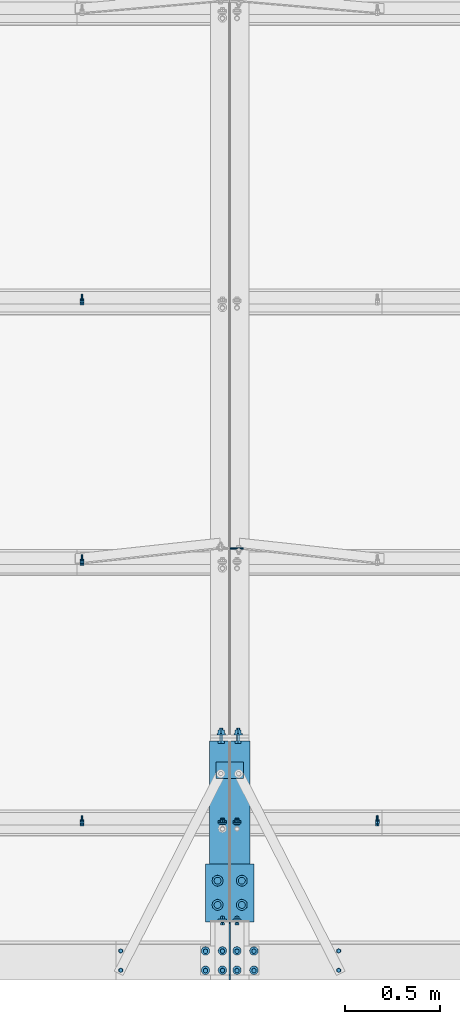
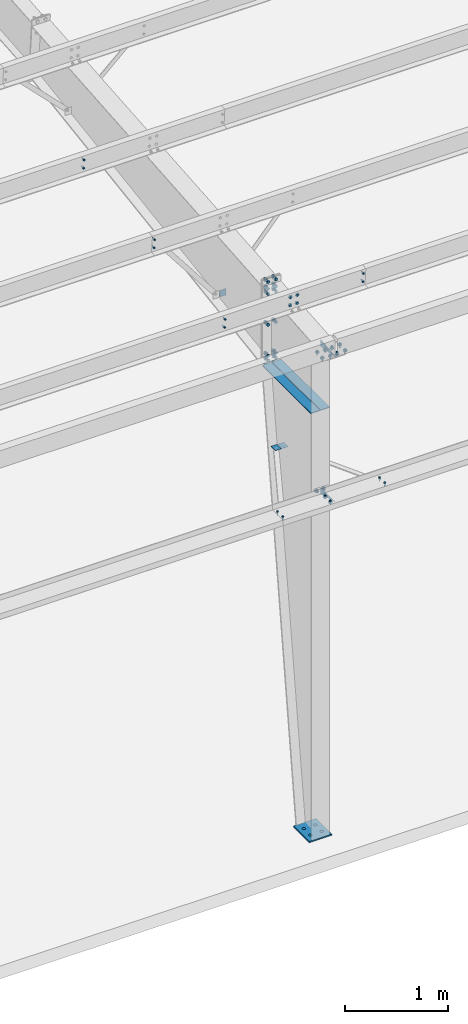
# One storey, part 73 of 185: 18 mechanical fasteners, 8 discrete accessories, 11 elements without a shape of their own.
"""IFC2X3 building model written with IfcOpenShell, lengths in millimetres."""

import ifcopenshell
import ifcopenshell.guid

model = None  # the IFC model being written
_history = None  # IfcOwnerHistory: only IFC2X3 demands one
_inside = {}  # id of a spatial element -> (the spatial element, [elements in it])
_under = {}  # id of a project, library or spatial element -> (it, [spatial elements below it])
_declared = {}  # id of a project -> (the project, [libraries it declares])
_typed = {}  # id of a type object -> (the type object, [elements of that type])
_made_of = {}  # id of a material, layer set ... -> (it, [elements and type objects made of it])


def new_model(schema):
    """Start an empty IFC model of exactly this schema.

    Asked for "IFC4X3", IfcOpenShell would pick the latest addendum, in which some entities
    have other attributes; the version numbers below select the first issue.
    IFC2X3 requires an IfcOwnerHistory on every rooted entity: one is made here for all.
    """
    global model, _history
    if schema == "IFC4X3":
        model = ifcopenshell.file(schema_version=(4, 3, 0, 0))
    else:
        model = ifcopenshell.file(schema=schema)
    _inside.clear()
    _under.clear()
    _declared.clear()
    _typed.clear()
    _made_of.clear()
    _history = None
    if model.schema == "IFC2X3":
        org = make("IfcOrganization", Name="unknown")
        user = make(
            "IfcPersonAndOrganization",
            ThePerson=make("IfcPerson", FamilyName="unknown"),
            TheOrganization=org,
        )
        app = make(
            "IfcApplication",
            ApplicationDeveloper=org,
            Version="unknown",
            ApplicationFullName="unknown",
            ApplicationIdentifier="unknown",
        )
        _history = make(
            "IfcOwnerHistory",
            OwningUser=user,
            OwningApplication=app,
            ChangeAction="ADDED",
            CreationDate=0,
        )
    return model


def make(cls, **values):
    """One entity of the class cls with the attributes given. An attribute that is None is left unset."""
    return model.create_entity(
        cls, **{name: value for name, value in values.items() if value is not None}
    )


def rooted(cls, **values):
    """An entity with a GlobalId (a new one), such as an element, a storey or a relation."""
    return make(cls, GlobalId=ifcopenshell.guid.new(), OwnerHistory=_history, **values)


def si_unit(unit_type, name, prefix=None):
    """IfcSIUnit, for example si_unit("LENGTHUNIT", "METRE", prefix="MILLI")."""
    return make("IfcSIUnit", UnitType=unit_type, Prefix=prefix, Name=name)


def assignment(units):
    """IfcUnitAssignment: the units of a project."""
    return None if units is None else make("IfcUnitAssignment", Units=units)


def point(xyz):
    """IfcCartesianPoint."""
    return None if xyz is None else make("IfcCartesianPoint", Coordinates=xyz)


def direction(xyz):
    """IfcDirection."""
    return None if xyz is None else make("IfcDirection", DirectionRatios=xyz)


def frame(location, z_axis=None, x_axis=None):
    """IfcAxis2Placement3D, a coordinate frame: its origin and axes. An axis left out is left unset."""
    return make(
        "IfcAxis2Placement3D",
        Location=point(location),
        Axis=direction(z_axis),
        RefDirection=direction(x_axis),
    )


def frame_2d(location, x_axis=None):
    """IfcAxis2Placement2D, a coordinate frame in the plane: its origin and x axis."""
    return make(
        "IfcAxis2Placement2D", Location=point(location), RefDirection=direction(x_axis)
    )


def origin_with_axes():
    """The frame at (0, 0, 0) with the z axis (0, 0, 1) and the x axis (1, 0, 0) written out."""
    return frame((0.0, 0.0, 0.0), z_axis=(0.0, 0.0, 1.0), x_axis=(1.0, 0.0, 0.0))


def origin_2d_with_axis():
    """The frame at (0, 0) in the plane with the x axis (1, 0) written out."""
    return frame_2d((0.0, 0.0), x_axis=(1.0, 0.0))


def place(relative_to, where):
    """IfcLocalPlacement: puts the frame where relative to a parent placement (None: the world)."""
    return make(
        "IfcLocalPlacement", PlacementRelTo=relative_to, RelativePlacement=where
    )


def context(
    kind, dimensions, precision=None, world=None, true_north=None, identifier=None
):
    """IfcGeometricRepresentationContext, for example the 3D "Model" context."""
    return make(
        "IfcGeometricRepresentationContext",
        ContextIdentifier=identifier,
        ContextType=kind,
        CoordinateSpaceDimension=dimensions,
        Precision=precision,
        WorldCoordinateSystem=world,
        TrueNorth=true_north,
    )


def subcontext(parent, identifier, kind, view, scale=None):
    """IfcGeometricRepresentationSubContext, for example "Body" below "Model"."""
    return make(
        "IfcGeometricRepresentationSubContext",
        ContextIdentifier=identifier,
        ContextType=kind,
        ParentContext=parent,
        TargetScale=scale,
        TargetView=view,
    )


def project(units=None, contexts=None):
    """IfcProject with its units and contexts."""
    return rooted(
        "IfcProject",
        Name="project",
        RepresentationContexts=contexts,
        UnitsInContext=assignment(units),
    )


def spatial(cls, under=None, at=None, **own):
    """A site, building, storey or space (cls), placed at a placement, below another one or the project."""
    s = rooted(cls, ObjectPlacement=at, **own)
    if under is not None:
        _under.setdefault(under.id(), (under, []))[1].append(s)
    return s


def polyline(points):
    """IfcPolyline through the points."""
    return make("IfcPolyline", Points=[point(p) for p in points])


def profile(cls, at=None, kind="AREA", **sizes):
    """A parametric profile (cls). Its sizes go by their IFC names, for example OverallWidth=200.0."""
    return make(cls, ProfileType=kind, Position=at, **sizes)


def rectangle(**sizes):
    """IfcRectangleProfileDef."""
    return profile("IfcRectangleProfileDef", **sizes)


def circle(**sizes):
    """IfcCircleProfileDef."""
    return profile("IfcCircleProfileDef", **sizes)


def outline(outer, holes=None, kind="AREA"):
    """IfcArbitraryClosedProfileDef: a profile drawn as a closed curve; with holes, ...WithVoids."""
    if holes is None:
        return make("IfcArbitraryClosedProfileDef", ProfileType=kind, OuterCurve=outer)
    return make(
        "IfcArbitraryProfileDefWithVoids",
        ProfileType=kind,
        OuterCurve=outer,
        InnerCurves=holes,
    )


def extrude(swept, where, along, depth):
    """IfcExtrudedAreaSolid: the profile swept, set in the frame where, extruded along a direction by depth."""
    return make(
        "IfcExtrudedAreaSolid",
        SweptArea=swept,
        Position=where,
        ExtrudedDirection=direction(along),
        Depth=depth,
    )


def shape(context_of_items, identifier, shape_type, items):
    """IfcShapeRepresentation: the items that make up one representation, for example the "Body"."""
    return make(
        "IfcShapeRepresentation",
        ContextOfItems=context_of_items,
        RepresentationIdentifier=identifier,
        RepresentationType=shape_type,
        Items=items,
    )


def source(mapping_origin, context_of_items, identifier, shape_type, items):
    """IfcRepresentationMap: a shape defined once, which mapped items show again and again."""
    return make(
        "IfcRepresentationMap",
        MappingOrigin=mapping_origin,
        MappedRepresentation=shape(context_of_items, identifier, shape_type, items),
    )


def transform(
    local_origin,
    x_axis=None,
    y_axis=None,
    z_axis=None,
    scale=None,
    scale2=None,
    scale3=None,
    uniform=True,
):
    """IfcCartesianTransformationOperator3D, or its non-uniform kind. x_axis, y_axis, z_axis: its Axis1, 2, 3."""
    if uniform:
        return make(
            "IfcCartesianTransformationOperator3D",
            Axis1=direction(x_axis),
            Axis2=direction(y_axis),
            LocalOrigin=point(local_origin),
            Scale=scale,
            Axis3=direction(z_axis),
        )
    return make(
        "IfcCartesianTransformationOperator3DnonUniform",
        Axis1=direction(x_axis),
        Axis2=direction(y_axis),
        LocalOrigin=point(local_origin),
        Scale=scale,
        Axis3=direction(z_axis),
        Scale2=scale2,
        Scale3=scale3,
    )


def mapped(mapping_source, mapping_target):
    """IfcMappedItem: shows the shape of a source again, moved by a transform."""
    return make(
        "IfcMappedItem", MappingSource=mapping_source, MappingTarget=mapping_target
    )


def material(Name=None, Category=None):
    """IfcMaterial."""
    return make("IfcMaterial", Name=Name, Category=Category)


def made_of(thing, what):
    """Note that an element or type object is made of a material, layer set ...; save() writes the relation."""
    if what is not None:
        _made_of.setdefault(what.id(), (what, []))[1].append(thing)
    return thing


def type_object(cls, material=None, **own):
    """A type object (cls), such as IfcWallType, which elements share."""
    return made_of(rooted(cls, **own), material)


def element(
    cls,
    number,
    at=None,
    inside=None,
    cuts=None,
    type_object=None,
    material=None,
    context=None,
    identifier="Body",
    shape_type=None,
    held_by="IfcProductDefinitionShape",
    body=None,
    shapes=None,
    **own,
):
    """One element of the class cls, such as IfcWall. Its Tag is "e" and its number.

    at: its placement. inside: the storey or other place that contains it. cuts: it is an
    opening in that element (IfcRelVoidsElement). A single representation is given by context,
    identifier, shape_type and body (its items); several are given by shapes. held_by: the class
    of the entity that holds the representations. save() writes the other relations.
    """
    e = rooted(cls, Tag="e%d" % number, ObjectPlacement=at, **own)
    if body is not None:
        shapes = [shape(context, identifier, shape_type, body)]
    if shapes is not None:
        e.Representation = make(held_by, Representations=shapes)
    if inside is not None:
        _inside.setdefault(inside.id(), (inside, []))[1].append(e)
    if cuts is not None:
        rooted(
            "IfcRelVoidsElement", RelatingBuildingElement=cuts, RelatedOpeningElement=e
        )
    if type_object is not None:
        _typed.setdefault(type_object.id(), (type_object, []))[1].append(e)
    return made_of(e, material)


def aggregate(whole, parts):
    """IfcRelAggregates: a whole, such as a stair, and the parts it consists of."""
    return rooted("IfcRelAggregates", RelatingObject=whole, RelatedObjects=parts)


def save(model, path):
    """Write the relations noted so far, then the file.

    IfcRelAggregates (storeys below a building ...), IfcRelContainedInSpatialStructure (elements
    in a storey), IfcRelDefinesByType, IfcRelAssociatesMaterial and IfcRelDeclares: one each for
    every whole, place, type object, material and project.
    """
    for whole, parts in _under.values():
        aggregate(whole, parts)
    for where, things in _inside.values():
        rooted(
            "IfcRelContainedInSpatialStructure",
            RelatedElements=things,
            RelatingStructure=where,
        )
    for kind, things in _typed.values():
        rooted("IfcRelDefinesByType", RelatedObjects=things, RelatingType=kind)
    for what, things in _made_of.values():
        rooted("IfcRelAssociatesMaterial", RelatedObjects=things, RelatingMaterial=what)
    for by, libraries in _declared.values():
        rooted("IfcRelDeclares", RelatingContext=by, RelatedDefinitions=libraries)
    model.write(path)


model = new_model("IFC2X3")

# Units and contexts
model_context = context("Model", 3, precision=1e-05, world=origin_with_axes())
body_context = subcontext(model_context, "Body", "Model", "MODEL_VIEW")
ifc_project = project(units=[si_unit("LENGTHUNIT", "METRE", prefix="MILLI"), si_unit("AREAUNIT", "SQUARE_METRE"), si_unit("VOLUMEUNIT", "CUBIC_METRE"), si_unit("MASSUNIT", "GRAM", prefix="KILO"), si_unit("TIMEUNIT", "SECOND"), si_unit("PLANEANGLEUNIT", "RADIAN"), si_unit("SOLIDANGLEUNIT", "STERADIAN"), si_unit("THERMODYNAMICTEMPERATUREUNIT", "DEGREE_CELSIUS"), si_unit("LUMINOUSINTENSITYUNIT", "LUMEN")], contexts=[model_context])

# Site, building, storey
site_placement = place(None, origin_with_axes())
site = spatial("IfcSite", under=ifc_project, at=site_placement, Name="Undefined", CompositionType="ELEMENT")
building_placement = place(site_placement, origin_with_axes())
building = spatial("IfcBuilding", under=site, at=building_placement, Name="Undefined", CompositionType="ELEMENT")
storey_placement = place(building_placement, origin_with_axes())
storey = spatial("IfcBuildingStorey", under=building, at=storey_placement, Name="Undefined", CompositionType="ELEMENT", Elevation=0.0)

# Assembly, discrete accessories
assembly_1_placement = place(storey_placement, origin_with_axes())
assembly_1 = element("IfcElementAssembly", 1, at=assembly_1_placement, inside=storey, Name="Steel Assembly", AssemblyPlace="NOTDEFINED", PredefinedType="RIGID_FRAME")
ifc_material_1 = material(Name="STEEL/55")
discrete_accessory_type_1 = type_object("IfcDiscreteAccessoryType", Name="Stiff")
discrete_accessory_1_placement = place(assembly_1_placement, frame((22533.76875, 312.674, 5067.48165112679), z_axis=(-1.0, 0.0, 0.0), x_axis=(0.0, 1.0, 0.0)))
discrete_accessory_1 = element("IfcDiscreteAccessory", 2, at=discrete_accessory_1_placement, type_object=discrete_accessory_type_1, material=ifc_material_1, Name="Stiff", ObjectType="FL3/8\"X4\"", context=body_context, shape_type="SweptSolid", body=[
    extrude(rectangle(XDim=9.525, YDim=101.6, at=origin_2d_with_axis()), frame((939.799999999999, 0.0, 0.0), z_axis=(-1.0, 0.0, 0.0), x_axis=(0.0, -1.0, 0.0)), (0.0, 0.0, 1.0), 939.8),
])
discrete_accessory_2_placement = place(assembly_1_placement, frame((22424.23125, 312.674, 5067.48165112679), z_axis=(-1.0, 0.0, 0.0), x_axis=(0.0, 1.0, 0.0)))
discrete_accessory_2 = element("IfcDiscreteAccessory", 3, at=discrete_accessory_2_placement, type_object=discrete_accessory_type_1, material=ifc_material_1, Name="Stiff", ObjectType="FL3/8\"X4\"", context=body_context, shape_type="SweptSolid", body=[
    extrude(rectangle(XDim=9.525, YDim=101.6, at=origin_2d_with_axis()), frame((939.799999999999, 0.0, 0.0), z_axis=(-1.0, 0.0, 0.0), x_axis=(0.0, -1.0, 0.0)), (0.0, 0.0, 1.0), 939.8),
])

# Assembly, mechanical fastener
assembly_2_placement = place(storey_placement, origin_with_axes())
assembly_2 = element("IfcElementAssembly", 4, at=assembly_2_placement, inside=storey, Name="Steel Assembly", AssemblyPlace="NOTDEFINED", PredefinedType="RIGID_FRAME")
ifc_material_2 = material(Name="Undefined")
discrete_accessory_type_2 = type_object("IfcDiscreteAccessoryType", Name="Bolt assembly")
shared_shape_1 = source(origin_with_axes(), body_context, "Body", "SweptSolid", [
    extrude(circle(Radius=7.14374971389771, at=origin_2d_with_axis()), frame((0.0, -1.59000001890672, 0.0), z_axis=(0.0, 1.0, 0.0), x_axis=(1.0, 0.0, 0.0)), (0.0, 0.0, 1.0), 3.3),
    extrude(circle(Radius=13.4937496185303, at=origin_2d_with_axis()), frame((0.0, -5.5587500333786, 0.0), z_axis=(0.0, 1.0, 0.0), x_axis=(1.0, 0.0, 0.0)), (0.0, 0.0, 1.0), 4.0),
    extrude(circle(Radius=22.2250003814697, at=origin_2d_with_axis()), frame((0.0, 1.5900000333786, 0.0), z_axis=(0.0, 1.0, 0.0), x_axis=(1.0, 0.0, 0.0)), (0.0, 0.0, 1.0), 7.9),
    extrude(outline(polyline([(12.8316099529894, 0.0), (6.4158049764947, 11.1125001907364), (-6.4158049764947, 11.1125001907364), (-12.8316099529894, 0.0), (-6.4158049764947, -11.1125001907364), (6.4158049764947, -11.1125001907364), (12.8316099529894, 0.0)])), frame((0.0, 9.5275000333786, 0.0), z_axis=(0.0, 1.0, 0.0), x_axis=(1.0, 0.0, 0.0)), (0.0, 0.0, 1.0), 12.3),
])
mechanical_fastener_1_placement = place(assembly_2_placement, frame((22517.1, 818.861779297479, 6113.26239802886), z_axis=(1.0, 0.0, 0.0), x_axis=(0.0, 0.0830454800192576, -0.996545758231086)))
mechanical_fastener_1 = element("IfcMechanicalFastener", 5, at=mechanical_fastener_1_placement, type_object=discrete_accessory_type_2, material=ifc_material_2, Name="Bolt assembly", NominalDiameter=12.6999998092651, NominalLength=38.0999984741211, context=body_context, shape_type="MappedRepresentation", body=[
    mapped(shared_shape_1, transform((0.0, 0.0, 0.0))),
    mapped(shared_shape_1, transform((101.599998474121, 0.0, 0.0))),
])
aggregate(assembly_2, [mechanical_fastener_1])

assembly_3_placement = place(storey_placement, origin_with_axes())
assembly_3 = element("IfcElementAssembly", 6, at=assembly_3_placement, inside=storey, Name="Steel Assembly", AssemblyPlace="NOTDEFINED", PredefinedType="RIGID_FRAME")
mechanical_fastener_2_placement = place(assembly_3_placement, frame((22440.9, 818.861779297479, 6113.26239802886), z_axis=(1.0, 0.0, 0.0), x_axis=(0.0, 0.0830454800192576, -0.996545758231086)))
mechanical_fastener_2 = element("IfcMechanicalFastener", 7, at=mechanical_fastener_2_placement, type_object=discrete_accessory_type_2, material=ifc_material_2, Name="Bolt assembly", NominalDiameter=12.6999998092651, NominalLength=38.0999984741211, context=body_context, shape_type="MappedRepresentation", body=[
    mapped(shared_shape_1, transform((0.0, 0.0, 0.0))),
    mapped(shared_shape_1, transform((101.599998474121, 0.0, 0.0))),
])

# Discrete accessory
discrete_accessory_type_3 = type_object("IfcDiscreteAccessoryType", Name="Base Plate")
discrete_accessory_3_placement = place(assembly_1_placement, frame((22479.0, 304.8, 7.93749999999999), z_axis=(1.0, 0.0, 0.0), x_axis=(0.0, 1.0, 0.0)))
discrete_accessory_3 = element("IfcDiscreteAccessory", 8, at=discrete_accessory_3_placement, type_object=discrete_accessory_type_3, material=ifc_material_1, Name="Base Plate", ObjectType="FL5/8\"X10\"", context=body_context, shape_type="SweptSolid", body=[
    extrude(rectangle(XDim=15.875, YDim=254.0, at=origin_2d_with_axis()), frame((304.909695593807, 0.0, 0.0), z_axis=(-1.0, 0.0, 0.0), x_axis=(0.0, -1.0, 0.0)), (0.0, 0.0, 1.0), 304.9),
])

discrete_accessory_type_4 = type_object("IfcDiscreteAccessoryType", Name="FLANGE BRACE FLIP")
discrete_accessory_4_placement = place(assembly_1_placement, frame((22476.61875, 1100.12169218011, 4163.4569751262), z_axis=(0.0, -1.0, 0.0), x_axis=(-1.0, 0.0, 0.0)))
discrete_accessory_4 = element("IfcDiscreteAccessory", 9, at=discrete_accessory_4_placement, type_object=discrete_accessory_type_4, material=ifc_material_1, Name="FLANGE BRACE FLIP", ObjectType="PL1/8\"X2 3/4\"", context=body_context, shape_type="SweptSolid", body=[
    extrude(rectangle(XDim=3.416, YDim=85.725, at=origin_2d_with_axis()), frame((69.8499999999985, 0.0, 0.0), z_axis=(-1.0, 0.0, 0.0), x_axis=(0.0, -1.0, 0.0)), (0.0, 0.0, 1.0), 69.8),
])

discrete_accessory_5_placement = place(assembly_1_placement, frame((22481.38125, 1100.12169218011, 4163.4569751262), z_axis=(0.0, -1.0, 0.0), x_axis=(1.0, 0.0, 0.0)))
discrete_accessory_5 = element("IfcDiscreteAccessory", 10, at=discrete_accessory_5_placement, type_object=discrete_accessory_type_4, material=ifc_material_1, Name="FLANGE BRACE FLIP", ObjectType="PL1/8\"X2 3/4\"", context=body_context, shape_type="SweptSolid", body=[
    extrude(rectangle(XDim=3.416, YDim=85.725, at=origin_2d_with_axis()), frame((69.8499999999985, 0.0, 0.0), z_axis=(-1.0, 0.0, 0.0), x_axis=(0.0, -1.0, 0.0)), (0.0, 0.0, 1.0), 69.8),
])

# Assembly, discrete accessory
assembly_4_placement = place(storey_placement, origin_with_axes())
assembly_4 = element("IfcElementAssembly", 11, at=assembly_4_placement, inside=storey, Name="Steel Assembly", AssemblyPlace="NOTDEFINED", PredefinedType="RIGID_FRAME")
discrete_accessory_6_placement = place(assembly_4_placement, frame((22481.381, 2264.17630960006, 5265.17211501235), z_axis=(0.0, -0.0830454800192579, 0.996545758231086), x_axis=(1.0, 0.0, 0.0)))
discrete_accessory_6 = element("IfcDiscreteAccessory", 12, at=discrete_accessory_6_placement, type_object=discrete_accessory_type_4, material=ifc_material_1, Name="FLANGE BRACE FLIP", ObjectType="PL1/8\"X2 3/4\"", context=body_context, shape_type="SweptSolid", body=[
    extrude(rectangle(XDim=3.416, YDim=85.725, at=origin_2d_with_axis()), frame((69.8499999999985, 0.0, 0.0), z_axis=(-1.0, 0.0, 0.0), x_axis=(0.0, -1.0, 0.0)), (0.0, 0.0, 1.0), 69.8),
])
aggregate(assembly_4, [discrete_accessory_6])

# Assembly, discrete accessory, mechanical fasteners
assembly_5_placement = place(storey_placement, origin_with_axes())
assembly_5 = element("IfcElementAssembly", 13, at=assembly_5_placement, inside=storey, Name="Steel Assembly", AssemblyPlace="NOTDEFINED", PredefinedType="RIGID_FRAME")
discrete_accessory_type_5 = type_object("IfcDiscreteAccessoryType", Name="Gusett")
discrete_accessory_7_placement = place(assembly_5_placement, frame((22479.0, 298.449999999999, 4089.4), z_axis=(1.0, 0.0, 0.0), x_axis=(0.0, 0.0, 1.0)))
discrete_accessory_7 = element("IfcDiscreteAccessory", 14, at=discrete_accessory_7_placement, type_object=discrete_accessory_type_5, material=ifc_material_1, Name="Gusett", ObjectType="FL1/4\"X2 3/4\"", context=body_context, shape_type="SweptSolid", body=[
    extrude(outline(polyline([(0.0, 0.0), (69.8499984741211, 0.0), (69.8499984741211, 273.049987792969), (0.0, 0.0)])), frame((0.0, 0.0, -3.175), z_axis=(0.0, 0.0, 1.0), x_axis=(1.0, 0.0, 0.0)), (0.0, 0.0, 1.0), 6.4),
])
shared_shape_2 = source(origin_with_axes(), body_context, "Body", "SweptSolid", [
    extrude(circle(Radius=7.14374971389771, at=origin_2d_with_axis()), frame((0.0, -0.1, 0.0), z_axis=(0.0, 1.0, 0.0), x_axis=(1.0, 0.0, 0.0)), (0.0, 0.0, 1.0), 8.0),
    extrude(circle(Radius=7.14374971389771, at=origin_2d_with_axis()), frame((0.0, -6.24999999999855, 0.0), z_axis=(0.0, 1.0, 0.0), x_axis=(1.0, 0.0, 0.0)), (0.0, 0.0, 1.0), 6.4),
    extrude(outline(polyline([(10.9985221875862, 0.0), (5.4992610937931, 9.52499961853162), (-5.4992610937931, 9.52499961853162), (-10.9985221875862, 0.0), (-5.4992610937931, -9.52499961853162), (5.4992610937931, -9.52499961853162), (10.9985221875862, 0.0)])), frame((0.0, -15.8750000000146, 0.0), z_axis=(0.0, 1.0, 0.0), x_axis=(1.0, 0.0, 0.0)), (0.0, 0.0, 1.0), 9.5),
    extrude(circle(Radius=6.34999990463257, at=origin_2d_with_axis()), frame((0.0, -6.34999953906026, 0.0), z_axis=(0.0, 1.0, 0.0), x_axis=(1.0, 0.0, 0.0)), (0.0, 0.0, 1.0), 38.1),
    extrude(circle(Radius=22.2250003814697, at=origin_2d_with_axis()), frame((0.0, 7.87399999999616, 0.0), z_axis=(0.0, 1.0, 0.0), x_axis=(1.0, 0.0, 0.0)), (0.0, 0.0, 1.0), 7.9),
    extrude(outline(polyline([(12.8316099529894, 0.0), (6.4158049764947, 11.1125001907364), (-6.4158049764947, 11.1125001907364), (-12.8316099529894, 0.0), (-6.4158049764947, -11.1125001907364), (6.4158049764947, -11.1125001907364), (12.8316099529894, 0.0)])), frame((0.0, 15.8114999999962, 0.0), z_axis=(0.0, 1.0, 0.0), x_axis=(1.0, 0.0, 0.0)), (0.0, 0.0, 1.0), 12.3),
])
mechanical_fastener_3_placement = place(assembly_5_placement, frame((22479.0, 304.8, 4127.5), z_axis=(1.0, 0.0, 0.0), x_axis=(0.0, 0.0, -1.0)))
mechanical_fastener_3 = element("IfcMechanicalFastener", 15, at=mechanical_fastener_3_placement, type_object=discrete_accessory_type_2, material=ifc_material_2, Name="Bolt assembly", NominalDiameter=12.6999998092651, NominalLength=38.0999984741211, context=body_context, shape_type="MappedRepresentation", body=[
    mapped(shared_shape_2, transform((0.0, 0.0, -38.0999984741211))),
    mapped(shared_shape_2, transform((0.0, 0.0, 38.0999984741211))),
])
shared_shape_3 = source(origin_with_axes(), body_context, "Body", "SweptSolid", [
    extrude(circle(Radius=7.14374971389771, at=origin_2d_with_axis()), frame((0.0, -1.4900000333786, 0.0), z_axis=(0.0, 1.0, 0.0), x_axis=(1.0, 0.0, 0.0)), (0.0, 0.0, 1.0), 3.2),
    extrude(circle(Radius=7.14374971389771, at=origin_2d_with_axis()), frame((0.0, -0.1, 0.0), z_axis=(0.0, 1.0, 0.0), x_axis=(1.0, 0.0, 0.0)), (0.0, 0.0, 1.0), 6.5),
    extrude(circle(Radius=7.14374971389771, at=origin_2d_with_axis()), frame((0.0, -1.4900000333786, 0.0), z_axis=(0.0, 1.0, 0.0), x_axis=(1.0, 0.0, 0.0)), (0.0, 0.0, 1.0), 3.2),
    extrude(outline(polyline([(10.9985221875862, 0.0), (5.4992610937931, 9.52499961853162), (-5.4992610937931, 9.52499961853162), (-10.9985221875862, 0.0), (-5.4992610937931, -9.52499961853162), (5.4992610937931, -9.52499961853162), (10.9985221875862, 0.0)])), frame((0.0, -15.0837496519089, 0.0), z_axis=(0.0, 1.0, 0.0), x_axis=(1.0, 0.0, 0.0)), (0.0, 0.0, 1.0), 9.5),
    extrude(circle(Radius=6.34999990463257, at=origin_2d_with_axis()), frame((0.0, -5.5587500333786, 0.0), z_axis=(0.0, 1.0, 0.0), x_axis=(1.0, 0.0, 0.0)), (0.0, 0.0, 1.0), 38.1),
    extrude(circle(Radius=13.4937496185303, at=origin_2d_with_axis()), frame((0.0, -5.5587500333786, 0.0), z_axis=(0.0, 1.0, 0.0), x_axis=(1.0, 0.0, 0.0)), (0.0, 0.0, 1.0), 4.0),
    extrude(circle(Radius=22.2250003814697, at=origin_2d_with_axis()), frame((0.0, 6.35000000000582, 0.0), z_axis=(0.0, 1.0, 0.0), x_axis=(1.0, 0.0, 0.0)), (0.0, 0.0, 1.0), 7.9),
    extrude(outline(polyline([(12.8316099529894, 0.0), (6.4158049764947, 11.1125001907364), (-6.4158049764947, 11.1125001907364), (-12.8316099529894, 0.0), (-6.4158049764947, -11.1125001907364), (6.4158049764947, -11.1125001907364), (12.8316099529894, 0.0)])), frame((0.0, 14.2875000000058, 0.0), z_axis=(0.0, 1.0, 0.0), x_axis=(1.0, 0.0, 0.0)), (0.0, 0.0, 1.0), 12.3),
])
mechanical_fastener_4_placement = place(assembly_5_placement, frame((22440.9, 50.7999992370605, 4165.6), z_axis=(-1.0, 0.0, 0.0), x_axis=(0.0, 1.0, 0.0)))
mechanical_fastener_4 = element("IfcMechanicalFastener", 16, at=mechanical_fastener_4_placement, type_object=discrete_accessory_type_2, material=ifc_material_2, Name="Bolt assembly", NominalDiameter=12.6999998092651, NominalLength=38.0999984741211, context=body_context, shape_type="MappedRepresentation", body=[
    mapped(shared_shape_3, transform((0.0, 0.0, 0.0))),
    mapped(shared_shape_3, transform((101.599998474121, 0.0, 0.0))),
])
aggregate(assembly_5, [mechanical_fastener_3, mechanical_fastener_4, discrete_accessory_7])

# Assembly, mechanical fasteners
assembly_6_placement = place(storey_placement, origin_with_axes())
assembly_6 = element("IfcElementAssembly", 17, at=assembly_6_placement, inside=storey, Name="Steel Assembly", AssemblyPlace="NOTDEFINED", PredefinedType="RIGID_FRAME")
shared_shape_4 = source(origin_with_axes(), body_context, "Body", "SweptSolid", [
    extrude(circle(Radius=7.14374971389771, at=origin_2d_with_axis()), frame((0.0, -1.4900000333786, 0.0), z_axis=(0.0, 1.0, 0.0), x_axis=(1.0, 0.0, 0.0)), (0.0, 0.0, 1.0), 3.2),
    extrude(circle(Radius=7.14374971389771, at=origin_2d_with_axis()), frame((0.0, -1.4900000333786, 0.0), z_axis=(0.0, 1.0, 0.0), x_axis=(1.0, 0.0, 0.0)), (0.0, 0.0, 1.0), 3.2),
    extrude(outline(polyline([(10.9985221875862, 0.0), (5.4992610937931, 9.52499961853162), (-5.4992610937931, 9.52499961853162), (-10.9985221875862, 0.0), (-5.4992610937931, -9.52499961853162), (5.4992610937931, -9.52499961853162), (10.9985221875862, 0.0)])), frame((0.0, -11.1149996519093, 0.0), z_axis=(0.0, 1.0, 0.0), x_axis=(1.0, 0.0, 0.0)), (0.0, 0.0, 1.0), 9.5),
    extrude(circle(Radius=6.34999990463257, at=origin_2d_with_axis()), frame((0.0, -1.59000001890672, 0.0), z_axis=(0.0, 1.0, 0.0), x_axis=(1.0, 0.0, 0.0)), (0.0, 0.0, 1.0), 38.1),
    extrude(outline(polyline([(12.8316099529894, 0.0), (6.4158049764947, 11.1125001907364), (-6.4158049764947, 11.1125001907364), (-12.8316099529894, 0.0), (-6.4158049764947, -11.1125001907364), (6.4158049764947, -11.1125001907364), (12.8316099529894, 0.0)])), frame((0.0, 1.5900000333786, 0.0), z_axis=(0.0, 1.0, 0.0), x_axis=(1.0, 0.0, 0.0)), (0.0, 0.0, 1.0), 12.3),
])
mechanical_fastener_5_placement = place(assembly_6_placement, frame((23050.5, 50.8, 4165.6), z_axis=(-1.0, 0.0, 0.0), x_axis=(0.0, 1.0, 0.0)))
mechanical_fastener_5 = element("IfcMechanicalFastener", 18, at=mechanical_fastener_5_placement, type_object=discrete_accessory_type_2, material=ifc_material_2, Name="Bolt assembly", NominalDiameter=12.6999998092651, NominalLength=38.0999984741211, context=body_context, shape_type="MappedRepresentation", body=[
    mapped(shared_shape_4, transform((0.0, 0.0, 0.0))),
    mapped(shared_shape_4, transform((101.599998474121, 0.0, 0.0))),
])
mechanical_fastener_6_placement = place(assembly_6_placement, frame((21907.5, 50.8, 4165.6), z_axis=(-1.0, 0.0, 0.0), x_axis=(0.0, 1.0, 0.0)))
mechanical_fastener_6 = element("IfcMechanicalFastener", 19, at=mechanical_fastener_6_placement, type_object=discrete_accessory_type_2, material=ifc_material_2, Name="Bolt assembly", NominalDiameter=12.6999998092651, NominalLength=38.0999984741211, context=body_context, shape_type="MappedRepresentation", body=[
    mapped(shared_shape_4, transform((0.0, 0.0, 0.0))),
    mapped(shared_shape_4, transform((101.599998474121, 0.0, 0.0))),
])
aggregate(assembly_6, [mechanical_fastener_5, mechanical_fastener_6])

# Mechanical fastener
mechanical_fastener_7_placement = place(assembly_3_placement, frame((23253.7, 818.861779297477, 6113.26239802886), z_axis=(1.0, 0.0, 0.0), x_axis=(0.0, 0.0830454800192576, -0.996545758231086)))
mechanical_fastener_7 = element("IfcMechanicalFastener", 20, at=mechanical_fastener_7_placement, type_object=discrete_accessory_type_2, material=ifc_material_2, Name="Bolt assembly", NominalDiameter=12.6999998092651, NominalLength=38.0999984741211, context=body_context, shape_type="MappedRepresentation", body=[
    mapped(shared_shape_4, transform((0.0, 0.0, 0.0))),
    mapped(shared_shape_4, transform((101.599998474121, 0.0, 0.0))),
])

mechanical_fastener_8_placement = place(assembly_3_placement, frame((21704.3, 818.861779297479, 6113.26239802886), z_axis=(1.0, 0.0, 0.0), x_axis=(0.0, 0.0830454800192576, -0.996545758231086)))
mechanical_fastener_8 = element("IfcMechanicalFastener", 21, at=mechanical_fastener_8_placement, type_object=discrete_accessory_type_2, material=ifc_material_2, Name="Bolt assembly", NominalDiameter=12.6999998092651, NominalLength=38.0999984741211, context=body_context, shape_type="MappedRepresentation", body=[
    mapped(shared_shape_4, transform((0.0, 0.0, 0.0))),
    mapped(shared_shape_4, transform((101.599998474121, 0.0, 0.0))),
])

aggregate(assembly_3, [mechanical_fastener_2, mechanical_fastener_7, mechanical_fastener_8])

# Assembly, mechanical fastener
assembly_7_placement = place(storey_placement, origin_with_axes())
assembly_7 = element("IfcElementAssembly", 22, at=assembly_7_placement, inside=storey, Name="Steel Assembly", AssemblyPlace="NOTDEFINED", PredefinedType="RIGID_FRAME")
mechanical_fastener_9_placement = place(assembly_7_placement, frame((21704.3, 2185.7239412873, 6227.16757842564), z_axis=(1.0, 0.0, 0.0), x_axis=(0.0, 0.0830454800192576, -0.996545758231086)))
mechanical_fastener_9 = element("IfcMechanicalFastener", 23, at=mechanical_fastener_9_placement, type_object=discrete_accessory_type_2, material=ifc_material_2, Name="Bolt assembly", NominalDiameter=12.6999998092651, NominalLength=38.0999984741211, context=body_context, shape_type="MappedRepresentation", body=[
    mapped(shared_shape_4, transform((0.0, 0.0, 0.0))),
    mapped(shared_shape_4, transform((101.599998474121, 0.0, 0.0))),
])
aggregate(assembly_7, [mechanical_fastener_9])

assembly_8_placement = place(storey_placement, origin_with_axes())
assembly_8 = element("IfcElementAssembly", 24, at=assembly_8_placement, inside=storey, Name="Steel Assembly", AssemblyPlace="NOTDEFINED", PredefinedType="RIGID_FRAME")
mechanical_fastener_10_placement = place(assembly_8_placement, frame((21704.3, 3552.58610327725, 6341.07275882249), z_axis=(1.0, 0.0, 0.0), x_axis=(0.0, 0.0830454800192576, -0.996545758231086)))
mechanical_fastener_10 = element("IfcMechanicalFastener", 25, at=mechanical_fastener_10_placement, type_object=discrete_accessory_type_2, material=ifc_material_2, Name="Bolt assembly", NominalDiameter=12.6999998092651, NominalLength=38.0999984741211, context=body_context, shape_type="MappedRepresentation", body=[
    mapped(shared_shape_4, transform((0.0, 0.0, 0.0))),
    mapped(shared_shape_4, transform((101.599998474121, 0.0, 0.0))),
])
aggregate(assembly_8, [mechanical_fastener_10])

# Discrete accessory
discrete_accessory_type_6 = type_object("IfcDiscreteAccessoryType", Name="Gusset")
discrete_accessory_8_placement = place(assembly_1_placement, frame((22479.0, 304.8, 5909.51790803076), z_axis=(1.0, 0.0, 0.0), x_axis=(0.0, -0.996548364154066, -0.0830142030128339)))
discrete_accessory_8 = element("IfcDiscreteAccessory", 26, at=discrete_accessory_8_placement, type_object=discrete_accessory_type_6, material=ifc_material_1, Name="Gusset", ObjectType="1/4\"X2 15/16\"", context=body_context, shape_type="SweptSolid", body=[
    extrude(outline(polyline([(0.0, 0.0), (305.244781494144, -7.45785655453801e-11), (6.32568216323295, 75.9369888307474), (0.0, 0.0)])), frame((0.0, 0.0, -3.175), z_axis=(0.0, 0.0, 1.0), x_axis=(1.0, 0.0, 0.0)), (0.0, 0.0, 1.0), 6.4),
])

# Mechanical fastener
shared_shape_5 = source(origin_with_axes(), body_context, "Body", "SweptSolid", [
    extrude(circle(Radius=10.3187494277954, at=origin_2d_with_axis()), frame((0.0, -0.1, 0.0), z_axis=(0.0, 1.0, 0.0), x_axis=(1.0, 0.0, 0.0)), (0.0, 0.0, 1.0), 15.8),
    extrude(circle(Radius=10.3187494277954, at=origin_2d_with_axis()), frame((0.0, -15.775, 0.0), z_axis=(0.0, 1.0, 0.0), x_axis=(1.0, 0.0, 0.0)), (0.0, 0.0, 1.0), 15.9),
    extrude(outline(polyline([(18.3308710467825, 0.0), (9.16543552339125, 15.8750000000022), (-9.16543552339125, 15.8750000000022), (-18.3308710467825, 0.0), (-9.16543552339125, -15.8750000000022), (9.16543552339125, -15.8750000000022), (18.3308710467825, 0.0)])), frame((0.0, -27.78125, 0.0), z_axis=(0.0, 1.0, 0.0), x_axis=(1.0, 0.0, 0.0)), (0.0, 0.0, 1.0), 11.9),
    extrude(circle(Radius=9.52499961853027, at=origin_2d_with_axis()), frame((0.0, -15.8750000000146, 0.0), z_axis=(0.0, 1.0, 0.0), x_axis=(1.0, 0.0, 0.0)), (0.0, 0.0, 1.0), 69.8),
    extrude(circle(Radius=22.2250003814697, at=origin_2d_with_axis()), frame((0.0, 15.7480000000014, 0.0), z_axis=(0.0, 1.0, 0.0), x_axis=(1.0, 0.0, 0.0)), (0.0, 0.0, 1.0), 7.9),
    extrude(outline(polyline([(18.3308710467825, 0.0), (9.16543552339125, 15.8750000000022), (-9.16543552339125, 15.8750000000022), (-18.3308710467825, 0.0), (-9.16543552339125, -15.8750000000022), (9.16543552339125, -15.8750000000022), (18.3308710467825, 0.0)])), frame((0.0, 23.6855000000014, 0.0), z_axis=(0.0, 1.0, 0.0), x_axis=(1.0, 0.0, 0.0)), (0.0, 0.0, 1.0), 19.0),
])
mechanical_fastener_11_placement = place(assembly_1_placement, frame((22479.0, 1268.349, 5531.15865002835), z_axis=(1.0, 0.0, 0.0), x_axis=(0.0, 0.0, -1.0)))
mechanical_fastener_11 = element("IfcMechanicalFastener", 27, at=mechanical_fastener_11_placement, type_object=discrete_accessory_type_2, material=ifc_material_2, Name="Bolt assembly", NominalDiameter=19.0499992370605, NominalLength=69.8499984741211, context=body_context, shape_type="MappedRepresentation", body=[
    mapped(shared_shape_5, transform((0.0, 0.0, -44.4500007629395))),
    mapped(shared_shape_5, transform((0.0, 0.0, 44.4500007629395))),
])

mechanical_fastener_12_placement = place(assembly_1_placement, frame((22479.0, 1268.349, 5024.74615112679), z_axis=(-1.0, 0.0, 0.0), x_axis=(0.0, 0.0, 1.0)))
mechanical_fastener_12 = element("IfcMechanicalFastener", 28, at=mechanical_fastener_12_placement, type_object=discrete_accessory_type_2, material=ifc_material_2, Name="Bolt assembly", NominalDiameter=19.0499992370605, NominalLength=69.8499984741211, context=body_context, shape_type="MappedRepresentation", body=[
    mapped(shared_shape_5, transform((0.0, 0.0, -44.4500007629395))),
    mapped(shared_shape_5, transform((82.5500030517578, 0.0, -44.4500007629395))),
    mapped(shared_shape_5, transform((139.699996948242, 0.0, -44.4500007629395))),
    mapped(shared_shape_5, transform((0.0, 0.0, 44.4500007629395))),
    mapped(shared_shape_5, transform((82.5500030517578, 0.0, 44.4500007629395))),
    mapped(shared_shape_5, transform((139.699996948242, 0.0, 44.4500007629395))),
])

mechanical_fastener_13_placement = place(assembly_1_placement, frame((22479.0, 1268.349, 6037.57115112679), z_axis=(1.0, 0.0, 0.0), x_axis=(0.0, 0.0, -1.0)))
mechanical_fastener_13 = element("IfcMechanicalFastener", 29, at=mechanical_fastener_13_placement, type_object=discrete_accessory_type_2, material=ifc_material_2, Name="Bolt assembly", NominalDiameter=19.0499992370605, NominalLength=69.8499984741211, context=body_context, shape_type="MappedRepresentation", body=[
    mapped(shared_shape_5, transform((0.0, 0.0, -44.4500007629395))),
    mapped(shared_shape_5, transform((82.5500030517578, 0.0, -44.4500007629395))),
    mapped(shared_shape_5, transform((139.699996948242, 0.0, -44.4500007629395))),
    mapped(shared_shape_5, transform((0.0, 0.0, 44.4500007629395))),
    mapped(shared_shape_5, transform((82.5500030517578, 0.0, 44.4500007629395))),
    mapped(shared_shape_5, transform((139.699996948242, 0.0, 44.4500007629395))),
])

# Assembly, mechanical fasteners
assembly_9_placement = place(storey_placement, origin_with_axes())
assembly_9 = element("IfcElementAssembly", 30, at=assembly_9_placement, inside=storey, Name="Steel Assembly", AssemblyPlace="NOTDEFINED", PredefinedType="RIGID_FRAME")
shared_shape_6 = source(origin_with_axes(), body_context, "Body", "SweptSolid", [
    extrude(circle(Radius=7.14499998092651, at=origin_2d_with_axis()), frame((0.0, -7.8375000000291, 0.0), z_axis=(0.0, 1.0, 0.0), x_axis=(1.0, 0.0, 0.0)), (0.0, 0.0, 1.0), 6.4),
    extrude(circle(Radius=7.14499998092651, at=origin_2d_with_axis()), frame((0.0, -1.58749999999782, 0.0), z_axis=(0.0, 1.0, 0.0), x_axis=(1.0, 0.0, 0.0)), (0.0, 0.0, 1.0), 1.6),
    extrude(circle(Radius=7.14499998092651, at=origin_2d_with_axis()), frame((0.0, -0.1, 0.0), z_axis=(0.0, 1.0, 0.0), x_axis=(1.0, 0.0, 0.0)), (0.0, 0.0, 1.0), 8.1),
    extrude(outline(polyline([(12.8316099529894, 0.0), (6.4158049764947, 11.1125001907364), (-6.4158049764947, 11.1125001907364), (-12.8316099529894, 0.0), (-6.4158049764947, -11.1125001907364), (6.4158049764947, -11.1125001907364), (12.8316099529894, 0.0)])), frame((0.0, -15.8750000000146, 0.0), z_axis=(0.0, 1.0, 0.0), x_axis=(1.0, 0.0, 0.0)), (0.0, 0.0, 1.0), 7.9),
    extrude(circle(Radius=6.34999990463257, at=origin_2d_with_axis()), frame((0.0, -7.93749389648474, 0.0), z_axis=(0.0, 1.0, 0.0), x_axis=(1.0, 0.0, 0.0)), (0.0, 0.0, 1.0), 50.8),
    extrude(circle(Radius=22.2250003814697, at=origin_2d_with_axis()), frame((0.0, 7.95019856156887, 0.0), z_axis=(0.0, 1.0, 0.0), x_axis=(1.0, 0.0, 0.0)), (0.0, 0.0, 1.0), 7.9),
    extrude(outline(polyline([(12.8316099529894, 0.0), (6.4158049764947, 11.1125001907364), (-6.4158049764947, 11.1125001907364), (-12.8316099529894, 0.0), (-6.4158049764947, -11.1125001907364), (6.4158049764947, -11.1125001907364), (12.8316099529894, 0.0)])), frame((0.0, 15.8876985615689, 0.0), z_axis=(0.0, 1.0, 0.0), x_axis=(1.0, 0.0, 0.0)), (0.0, 0.0, 1.0), 12.3),
])
mechanical_fastener_14_placement = place(assembly_9_placement, frame((22440.9, 50.6245237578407, 5896.31437545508), z_axis=(-1.0, 0.0, 0.0), x_axis=(0.0, 0.996545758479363, 0.0830454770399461)))
mechanical_fastener_14 = element("IfcMechanicalFastener", 31, at=mechanical_fastener_14_placement, type_object=discrete_accessory_type_2, material=ifc_material_2, Name="Bolt assembly", NominalDiameter=12.6999998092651, NominalLength=50.7999992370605, context=body_context, shape_type="MappedRepresentation", body=[
    mapped(shared_shape_6, transform((0.0, 0.0, 0.0))),
    mapped(shared_shape_6, transform((101.599998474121, 0.0, 0.0))),
])
shared_shape_7 = source(origin_with_axes(), body_context, "Body", "SweptSolid", [
    extrude(circle(Radius=7.14499998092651, at=origin_2d_with_axis()), frame((0.0, -7.8375000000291, 0.0), z_axis=(0.0, 1.0, 0.0), x_axis=(1.0, 0.0, 0.0)), (0.0, 0.0, 1.0), 6.4),
    extrude(circle(Radius=7.14499998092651, at=origin_2d_with_axis()), frame((0.0, -1.68750355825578, 0.0), z_axis=(0.0, 1.0, 0.0), x_axis=(1.0, 0.0, 0.0)), (0.0, 0.0, 1.0), 1.7),
    extrude(outline(polyline([(12.8316099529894, 0.0), (6.4158049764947, 11.1125001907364), (-6.4158049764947, 11.1125001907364), (-12.8316099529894, 0.0), (-6.4158049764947, -11.1125001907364), (6.4158049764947, -11.1125001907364), (12.8316099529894, 0.0)])), frame((0.0, -15.8750000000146, 0.0), z_axis=(0.0, 1.0, 0.0), x_axis=(1.0, 0.0, 0.0)), (0.0, 0.0, 1.0), 7.9),
    extrude(circle(Radius=6.34999990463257, at=origin_2d_with_axis()), frame((0.0, -7.93749389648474, 0.0), z_axis=(0.0, 1.0, 0.0), x_axis=(1.0, 0.0, 0.0)), (0.0, 0.0, 1.0), 50.8),
    extrude(circle(Radius=22.2250003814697, at=origin_2d_with_axis()), frame((0.0, 0.0, 0.0), z_axis=(0.0, 1.0, 0.0), x_axis=(1.0, 0.0, 0.0)), (0.0, 0.0, 1.0), 7.9),
    extrude(outline(polyline([(12.8316099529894, 0.0), (6.4158049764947, 11.1125001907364), (-6.4158049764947, 11.1125001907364), (-12.8316099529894, 0.0), (-6.4158049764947, -11.1125001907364), (6.4158049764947, -11.1125001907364), (12.8316099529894, 0.0)])), frame((0.0, 7.93750000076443, 0.0), z_axis=(0.0, 1.0, 0.0), x_axis=(1.0, 0.0, 0.0)), (0.0, 0.0, 1.0), 12.3),
])
mechanical_fastener_15_placement = place(assembly_9_placement, frame((22352.0, 50.6245237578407, 5896.31437545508), z_axis=(-1.0, 0.0, 0.0), x_axis=(0.0, 0.996545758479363, 0.0830454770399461)))
mechanical_fastener_15 = element("IfcMechanicalFastener", 32, at=mechanical_fastener_15_placement, type_object=discrete_accessory_type_2, material=ifc_material_2, Name="Bolt assembly", NominalDiameter=12.6999998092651, NominalLength=50.7999992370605, context=body_context, shape_type="MappedRepresentation", body=[
    mapped(shared_shape_7, transform((0.0, 0.0, 0.0))),
    mapped(shared_shape_7, transform((101.599998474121, 0.0, 0.0))),
])
aggregate(assembly_9, [mechanical_fastener_14, mechanical_fastener_15])

# Assembly, mechanical fastener
assembly_10_placement = place(storey_placement, origin_with_axes())
assembly_10 = element("IfcElementAssembly", 33, at=assembly_10_placement, inside=storey, Name="Steel Assembly", AssemblyPlace="NOTDEFINED", PredefinedType="RIGID_FRAME")
shared_shape_8 = source(origin_with_axes(), body_context, "Body", "SweptSolid", [
    extrude(circle(Radius=7.14374971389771, at=origin_2d_with_axis()), frame((0.0, -7.8375000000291, 0.0), z_axis=(0.0, 1.0, 0.0), x_axis=(1.0, 0.0, 0.0)), (0.0, 0.0, 1.0), 6.4),
    extrude(circle(Radius=7.14374971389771, at=origin_2d_with_axis()), frame((0.0, -1.68750355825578, 0.0), z_axis=(0.0, 1.0, 0.0), x_axis=(1.0, 0.0, 0.0)), (0.0, 0.0, 1.0), 1.7),
    extrude(outline(polyline([(12.8316099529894, 0.0), (6.4158049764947, 11.1125001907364), (-6.4158049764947, 11.1125001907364), (-12.8316099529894, 0.0), (-6.4158049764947, -11.1125001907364), (6.4158049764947, -11.1125001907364), (12.8316099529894, 0.0)])), frame((0.0, -15.8750000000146, 0.0), z_axis=(0.0, 1.0, 0.0), x_axis=(1.0, 0.0, 0.0)), (0.0, 0.0, 1.0), 7.9),
    extrude(circle(Radius=6.34999990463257, at=origin_2d_with_axis()), frame((0.0, -7.93749389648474, 0.0), z_axis=(0.0, 1.0, 0.0), x_axis=(1.0, 0.0, 0.0)), (0.0, 0.0, 1.0), 50.8),
    extrude(circle(Radius=22.2250003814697, at=origin_2d_with_axis()), frame((0.0, 0.0, 0.0), z_axis=(0.0, 1.0, 0.0), x_axis=(1.0, 0.0, 0.0)), (0.0, 0.0, 1.0), 7.9),
    extrude(outline(polyline([(12.8316099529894, 0.0), (6.4158049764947, 11.1125001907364), (-6.4158049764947, 11.1125001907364), (-12.8316099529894, 0.0), (-6.4158049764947, -11.1125001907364), (6.4158049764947, -11.1125001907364), (12.8316099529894, 0.0)])), frame((0.0, 7.93750000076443, 0.0), z_axis=(0.0, 1.0, 0.0), x_axis=(1.0, 0.0, 0.0)), (0.0, 0.0, 1.0), 12.3),
])
mechanical_fastener_16_placement = place(assembly_10_placement, frame((22606.0, 50.6245237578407, 5896.31437545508), z_axis=(-1.0, 0.0, 0.0), x_axis=(0.0, 0.996545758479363, 0.0830454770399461)))
mechanical_fastener_16 = element("IfcMechanicalFastener", 34, at=mechanical_fastener_16_placement, type_object=discrete_accessory_type_2, material=ifc_material_2, Name="Bolt assembly", NominalDiameter=12.6999998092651, NominalLength=50.7999992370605, context=body_context, shape_type="MappedRepresentation", body=[
    mapped(shared_shape_8, transform((0.0, 0.0, 0.0))),
    mapped(shared_shape_8, transform((101.599998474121, 0.0, 0.0))),
])
aggregate(assembly_10, [mechanical_fastener_16])

assembly_11_placement = place(storey_placement, origin_with_axes())
assembly_11 = element("IfcElementAssembly", 35, at=assembly_11_placement, inside=storey, Name="Steel Assembly", AssemblyPlace="NOTDEFINED", PredefinedType="RIGID_FRAME")
shared_shape_9 = source(origin_with_axes(), body_context, "Body", "SweptSolid", [
    extrude(circle(Radius=7.14499998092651, at=origin_2d_with_axis()), frame((0.0, -1.58749999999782, 0.0), z_axis=(0.0, 1.0, 0.0), x_axis=(1.0, 0.0, 0.0)), (0.0, 0.0, 1.0), 1.6),
    extrude(circle(Radius=7.14499998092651, at=origin_2d_with_axis()), frame((0.0, -7.8375000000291, 0.0), z_axis=(0.0, 1.0, 0.0), x_axis=(1.0, 0.0, 0.0)), (0.0, 0.0, 1.0), 6.4),
    extrude(circle(Radius=7.14499998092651, at=origin_2d_with_axis()), frame((0.0, -0.1, 0.0), z_axis=(0.0, 1.0, 0.0), x_axis=(1.0, 0.0, 0.0)), (0.0, 0.0, 1.0), 8.1),
    extrude(outline(polyline([(12.8316099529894, 0.0), (6.4158049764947, 11.1125001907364), (-6.4158049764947, 11.1125001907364), (-12.8316099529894, 0.0), (-6.4158049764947, -11.1125001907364), (6.4158049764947, -11.1125001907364), (12.8316099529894, 0.0)])), frame((0.0, -15.8750000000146, 0.0), z_axis=(0.0, 1.0, 0.0), x_axis=(1.0, 0.0, 0.0)), (0.0, 0.0, 1.0), 7.9),
    extrude(circle(Radius=6.34999990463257, at=origin_2d_with_axis()), frame((0.0, -7.93749389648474, 0.0), z_axis=(0.0, 1.0, 0.0), x_axis=(1.0, 0.0, 0.0)), (0.0, 0.0, 1.0), 50.8),
    extrude(circle(Radius=22.2250003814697, at=origin_2d_with_axis()), frame((0.0, 7.95019856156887, 0.0), z_axis=(0.0, 1.0, 0.0), x_axis=(1.0, 0.0, 0.0)), (0.0, 0.0, 1.0), 7.9),
    extrude(outline(polyline([(12.8316099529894, 0.0), (6.4158049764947, 11.1125001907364), (-6.4158049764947, 11.1125001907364), (-12.8316099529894, 0.0), (-6.4158049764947, -11.1125001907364), (6.4158049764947, -11.1125001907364), (12.8316099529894, 0.0)])), frame((0.0, 15.8876985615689, 0.0), z_axis=(0.0, 1.0, 0.0), x_axis=(1.0, 0.0, 0.0)), (0.0, 0.0, 1.0), 12.3),
])
mechanical_fastener_17_placement = place(assembly_11_placement, frame((22517.1, 50.6245237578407, 5896.31437545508), z_axis=(-1.0, 0.0, 0.0), x_axis=(0.0, 0.996545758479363, 0.0830454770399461)))
mechanical_fastener_17 = element("IfcMechanicalFastener", 36, at=mechanical_fastener_17_placement, type_object=discrete_accessory_type_2, material=ifc_material_2, Name="Bolt assembly", NominalDiameter=12.6999998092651, NominalLength=50.7999992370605, context=body_context, shape_type="MappedRepresentation", body=[
    mapped(shared_shape_9, transform((0.0, 0.0, 0.0))),
    mapped(shared_shape_9, transform((101.599998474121, 0.0, 0.0))),
])
aggregate(assembly_11, [mechanical_fastener_17])

# Mechanical fastener
ifc_material_3 = material(Name="7990")
shared_shape_10 = source(origin_with_axes(), body_context, "Body", "SweptSolid", [
    extrude(circle(Radius=18.2562503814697, at=origin_2d_with_axis()), frame((0.0, -15.8750000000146, 0.0), z_axis=(0.0, 1.0, 0.0), x_axis=(1.0, 0.0, 0.0)), (0.0, 0.0, 1.0), 16.0),
    extrude(circle(Radius=28.575, at=origin_2d_with_axis()), frame((0.0, 0.0, 0.0), z_axis=(0.0, 1.0, 0.0), x_axis=(1.0, 0.0, 0.0)), (0.0, 0.0, 1.0), 10.5),
    extrude(outline(polyline([(30.4292459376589, 0.0), (15.2146229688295, 26.3525000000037), (-15.2146229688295, 26.3525000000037), (-30.4292459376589, 0.0), (-15.2146229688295, -26.3525000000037), (15.2146229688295, -26.3525000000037), (30.4292459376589, 0.0)])), frame((0.0, 10.4775, 0.0), z_axis=(0.0, 1.0, 0.0), x_axis=(1.0, 0.0, 0.0)), (0.0, 0.0, 1.0), 21.0),
])
mechanical_fastener_18_placement = place(assembly_1_placement, frame((22479.0, 393.700001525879, -1.06581410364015e-14), z_axis=(-1.0, 0.0, 0.0), x_axis=(0.0, 1.0, 0.0)))
mechanical_fastener_18 = element("IfcMechanicalFastener", 37, at=mechanical_fastener_18_placement, type_object=discrete_accessory_type_2, material=ifc_material_3, Name="Bolt assembly", NominalDiameter=31.75, NominalLength=15.875, context=body_context, shape_type="MappedRepresentation", body=[
    mapped(shared_shape_10, transform((0.0, 0.0, -63.5))),
    mapped(shared_shape_10, transform((127.0, 0.0, -63.5))),
    mapped(shared_shape_10, transform((0.0, 0.0, 63.5))),
    mapped(shared_shape_10, transform((127.0, 0.0, 63.5))),
])

aggregate(assembly_1, [discrete_accessory_4, discrete_accessory_5, discrete_accessory_8, mechanical_fastener_11, mechanical_fastener_12, mechanical_fastener_13, mechanical_fastener_18, discrete_accessory_1, discrete_accessory_2, discrete_accessory_3])

save(model, "model.ifc")
